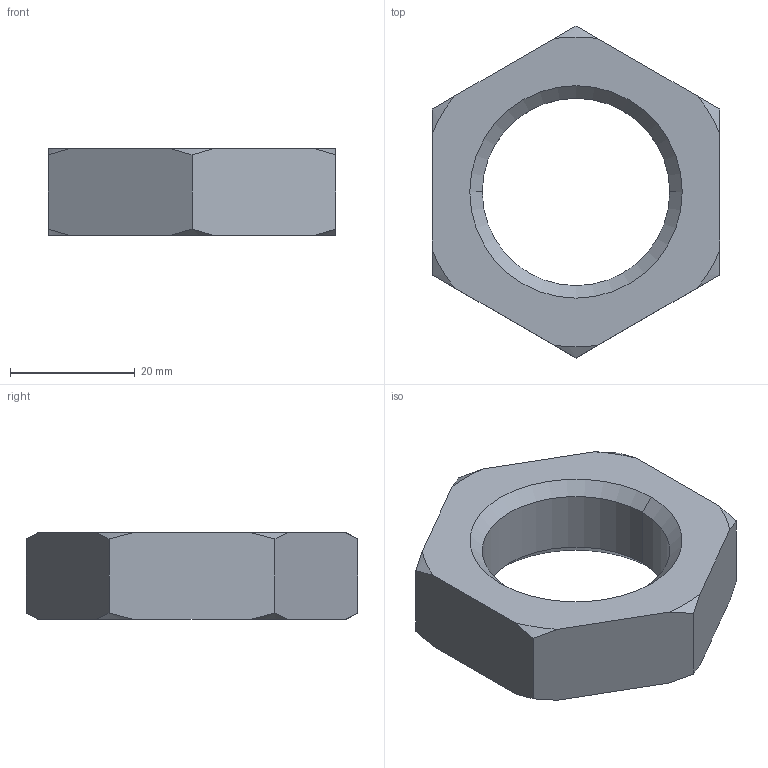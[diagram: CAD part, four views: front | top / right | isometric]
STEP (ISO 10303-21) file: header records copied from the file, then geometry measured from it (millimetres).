
FILE_DESCRIPTION (( 'STEP AP203' ), '1' );
FILE_NAME ('P0306.300-200-A2.step', '2018-12-15T14:55:38', ( '' ), ( '' ), 'SwSTEP 2.0', 'SolidWorks 2017', '' );
FILE_SCHEMA (( 'CONFIG_CONTROL_DESIGN' ));
Length unit declared in the file: millimetre
Products named in the file (1): P0306.300-200-A2
Bounding box: 46 x 53.12 x 13.9 mm (x, y, z)
Volume: 15230.1 mm3; surface area: 5530.6 mm2
Topology: 1 solids, 1 shells, 26 faces, 68 edges, 44 vertices
Faces by surface type: cone 16, plane 8, cylinder 2
Entity records: 921 total; most frequent: CARTESIAN_POINT 227, ORIENTED_EDGE 136, DIRECTION 118, EDGE_CURVE 68, AXIS2_PLACEMENT_3D 47, VERTEX_POINT 44, EDGE_LOOP 28, ADVANCED_FACE 26
